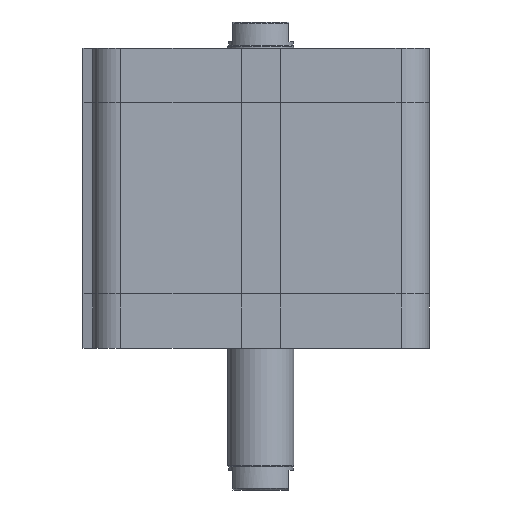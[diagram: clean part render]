
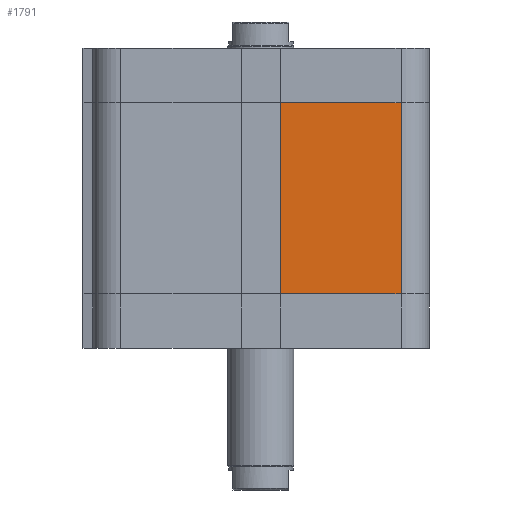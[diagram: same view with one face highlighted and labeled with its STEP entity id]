
A CAD part, left-side view. The second image highlights one B-rep face of the part: STEP entity #1791.
In plain terms, the highlighted planar face has unit normal (-1, 0, 0).
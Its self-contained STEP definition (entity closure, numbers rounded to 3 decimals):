
#1704=CARTESIAN_POINT('',(-51.,-6.,16.5));
#1705=VERTEX_POINT('',#1704);
#1712=CARTESIAN_POINT('',(-51.,-6.,74.5));
#1713=VERTEX_POINT('',#1712);
#1714=CARTESIAN_POINT('',(-51.,-6.,16.5));
#1715=DIRECTION('',(0.0,0.0,1.0));
#1716=VECTOR('',#1715,58.);
#1717=LINE('',#1714,#1716);
#1718=EDGE_CURVE('',#1705,#1713,#1717,.T.);
#1761=CARTESIAN_POINT('',(-51.0,-42.5,0.0));
#1762=DIRECTION('',(-1.0,0.0,0.0));
#1763=DIRECTION('',(0.0,0.0,1.0));
#1764=AXIS2_PLACEMENT_3D('',#1761,#1762,#1763);
#1765=PLANE('',#1764);
#1766=CARTESIAN_POINT('',(-51.0,-42.5,16.5));
#1767=VERTEX_POINT('',#1766);
#1768=CARTESIAN_POINT('',(-51.,-6.0,16.5));
#1769=DIRECTION('',(0.0,-1.0,0.0));
#1770=VECTOR('',#1769,36.5);
#1771=LINE('',#1768,#1770);
#1772=EDGE_CURVE('',#1705,#1767,#1771,.T.);
#1773=ORIENTED_EDGE('',*,*,#1772,.T.);
#1774=CARTESIAN_POINT('',(-51.0,-42.5,74.5));
#1775=VERTEX_POINT('',#1774);
#1776=CARTESIAN_POINT('',(-51.0,-42.5,16.5));
#1777=DIRECTION('',(0.0,0.0,1.0));
#1778=VECTOR('',#1777,58.);
#1779=LINE('',#1776,#1778);
#1780=EDGE_CURVE('',#1767,#1775,#1779,.T.);
#1781=ORIENTED_EDGE('',*,*,#1780,.T.);
#1782=CARTESIAN_POINT('',(-51.,-6.0,74.5));
#1783=DIRECTION('',(0.0,-1.0,0.0));
#1784=VECTOR('',#1783,36.5);
#1785=LINE('',#1782,#1784);
#1786=EDGE_CURVE('',#1713,#1775,#1785,.T.);
#1787=ORIENTED_EDGE('',*,*,#1786,.F.);
#1788=ORIENTED_EDGE('',*,*,#1718,.F.);
#1789=EDGE_LOOP('',(#1773,#1781,#1787,#1788));
#1790=FACE_OUTER_BOUND('',#1789,.T.);
#1791=ADVANCED_FACE('',(#1790),#1765,.T.);
